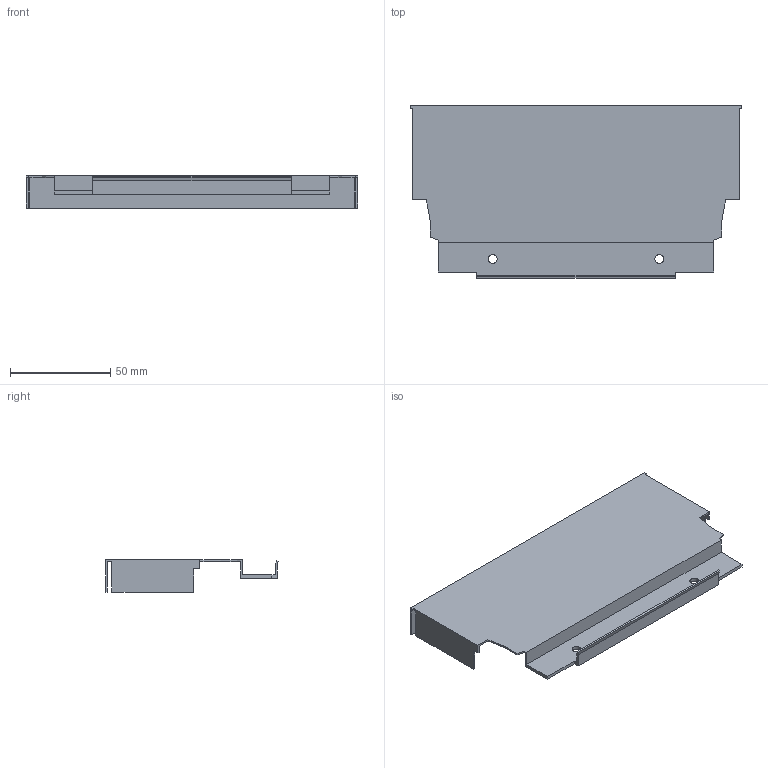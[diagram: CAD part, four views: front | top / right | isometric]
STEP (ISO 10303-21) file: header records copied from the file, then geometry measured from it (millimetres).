
FILE_DESCRIPTION (( 'STEP AP214' ), '1' );
FILE_NAME ('_DWD_XP Stahlrückwand_H86_KAB250_S18.step', '2010-07-08T12:10:16', ( 'grass' ), ( '' ), 'SwSTEP 2.0', 'SolidWorks 2010', '' );
FILE_SCHEMA (( 'AUTOMOTIVE_DESIGN' ));
Length unit declared in the file: millimetre
Products named in the file (1): _DWD_XP Stahlrückwand_H86_KAB250_S18
Bounding box: 165 x 85.79 x 16 mm (x, y, z)
Volume: 16883.2 mm3; surface area: 37731.9 mm2
Topology: 1 solids, 1 shells, 48 faces, 138 edges, 92 vertices
Faces by surface type: plane 44, cylinder 4
Entity records: 1592 total; most frequent: CARTESIAN_POINT 279, ORIENTED_EDGE 276, DIRECTION 244, EDGE_CURVE 138, VECTOR 130, LINE 130, VERTEX_POINT 92, AXIS2_PLACEMENT_3D 57
